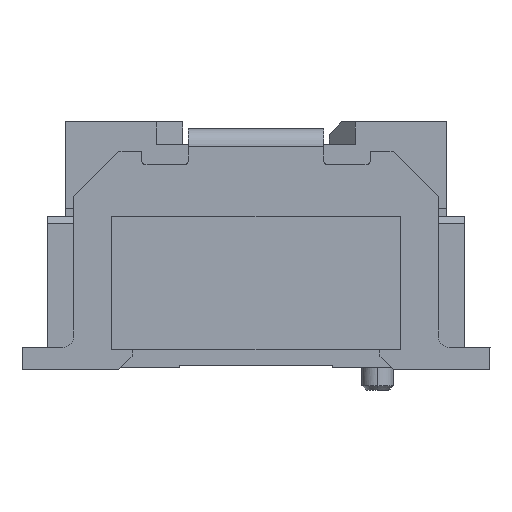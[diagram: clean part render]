
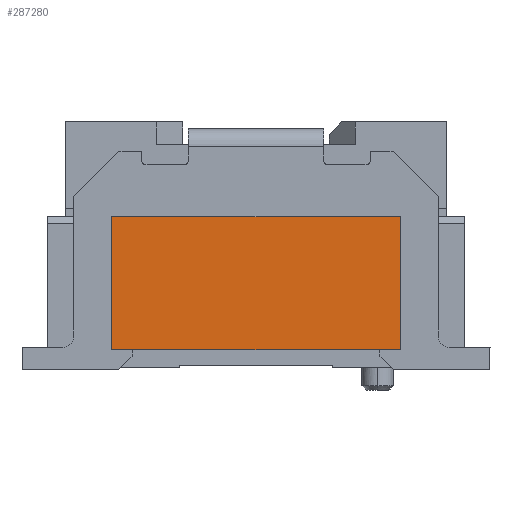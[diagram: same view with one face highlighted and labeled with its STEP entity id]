
A CAD part, left-side view. The second image highlights one B-rep face of the part: STEP entity #287280.
In plain terms, the highlighted planar face has unit normal (-1, 0, 0).
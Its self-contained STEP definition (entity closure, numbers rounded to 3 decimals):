
#271470=CARTESIAN_POINT('',(-1.893,-0.02,
-3.22));
#271480=VERTEX_POINT('',#271470);
#271510=CARTESIAN_POINT('',(-1.893,-0.02,
-5.031));
#271520=DIRECTION('',(0.,0.,-1.));
#271530=VECTOR('',#271520,1.);
#271540=LINE('',#271510,#271530);
#271550=CARTESIAN_POINT('',(-1.893,-0.02,
3.18));
#271560=VERTEX_POINT('',#271550);
#271570=EDGE_CURVE('',#271560,#271480,#271540,.T.);
#286460=CARTESIAN_POINT('',(-1.893,2.93,
-3.22));
#286470=VERTEX_POINT('',#286460);
#286500=CARTESIAN_POINT('',(-1.893,-0.507,
-3.22));
#286510=DIRECTION('',(0.,-1.,0.));
#286520=VECTOR('',#286510,1.);
#286530=LINE('',#286500,#286520);
#286540=EDGE_CURVE('',#286470,#271480,#286530,.T.);
#286780=CARTESIAN_POINT('',(-1.893,-0.507,
3.18));
#286790=DIRECTION('',(0.,1.,0.));
#286800=VECTOR('',#286790,1.);
#286810=LINE('',#286780,#286800);
#286820=CARTESIAN_POINT('',(-1.893,2.93,
3.18));
#286830=VERTEX_POINT('',#286820);
#286840=EDGE_CURVE('',#271560,#286830,#286810,.T.);
#287120=CARTESIAN_POINT('',(-1.893,2.93,
4.88));
#287130=DIRECTION('',(-1.,0.,0.));
#287140=DIRECTION('',(0.,1.,0.));
#287150=AXIS2_PLACEMENT_3D('',#287120,#287130,#287140);
#287160=PLANE('',#287150);
#287170=ORIENTED_EDGE('',*,*,#271570,.F.);
#287180=ORIENTED_EDGE('',*,*,#286540,.T.);
#287190=CARTESIAN_POINT('',(-1.893,2.93,
-5.031));
#287200=DIRECTION('',(0.,0.,-1.));
#287210=VECTOR('',#287200,1.);
#287220=LINE('',#287190,#287210);
#287230=EDGE_CURVE('',#286830,#286470,#287220,.T.);
#287240=ORIENTED_EDGE('',*,*,#287230,.T.);
#287250=ORIENTED_EDGE('',*,*,#286840,.T.);
#287260=EDGE_LOOP('',(#287250,#287240,#287180,#287170));
#287270=FACE_OUTER_BOUND('',#287260,.T.);
#287280=ADVANCED_FACE('',(#287270),#287160,.T.);
